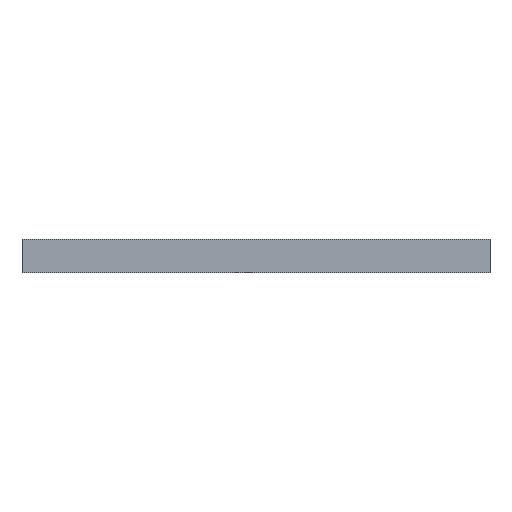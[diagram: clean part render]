
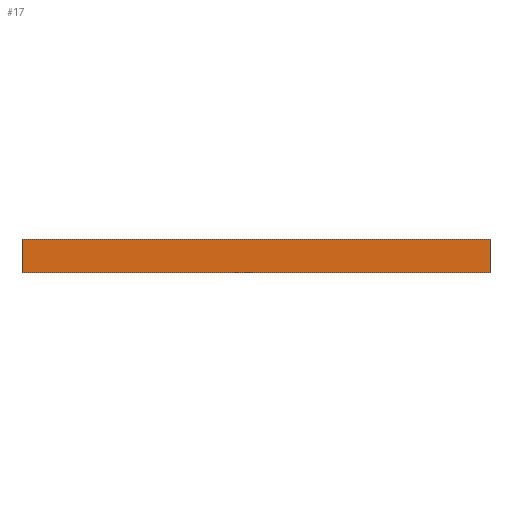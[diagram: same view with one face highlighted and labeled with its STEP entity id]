
A CAD part, left-side view. The second image highlights one B-rep face of the part: STEP entity #17.
In plain terms, the highlighted planar face has unit normal (-1, 0, 0).
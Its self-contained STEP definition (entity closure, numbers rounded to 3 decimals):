
#17 = ADVANCED_FACE('',(#18),#32,.F.);
#18 = FACE_BOUND('',#19,.F.);
#19 = EDGE_LOOP('',(#20,#55,#83,#111));
#20 = ORIENTED_EDGE('',*,*,#21,.F.);
#21 = EDGE_CURVE('',#22,#24,#26,.T.);
#22 = VERTEX_POINT('',#23);
#23 = CARTESIAN_POINT('',(-105.,-105.,0.));
#24 = VERTEX_POINT('',#25);
#25 = CARTESIAN_POINT('',(-105.,-105.,15.));
#26 = SURFACE_CURVE('',#27,(#31,#43),.PCURVE_S1.);
#27 = LINE('',#28,#29);
#28 = CARTESIAN_POINT('',(-105.,-105.,0.));
#29 = VECTOR('',#30,1.);
#30 = DIRECTION('',(0.,0.,1.));
#31 = PCURVE('',#32,#37);
#32 = PLANE('',#33);
#33 = AXIS2_PLACEMENT_3D('',#34,#35,#36);
#34 = CARTESIAN_POINT('',(-105.,-105.,0.));
#35 = DIRECTION('',(1.,0.,0.));
#36 = DIRECTION('',(0.,0.,1.));
#37 = DEFINITIONAL_REPRESENTATION('',(#38),#42);
#38 = LINE('',#39,#40);
#39 = CARTESIAN_POINT('',(0.,0.));
#40 = VECTOR('',#41,1.);
#41 = DIRECTION('',(1.,0.));
#42 = ( GEOMETRIC_REPRESENTATION_CONTEXT(2) 
PARAMETRIC_REPRESENTATION_CONTEXT() REPRESENTATION_CONTEXT('2D SPACE',''
  ) );
#43 = PCURVE('',#44,#49);
#44 = PLANE('',#45);
#45 = AXIS2_PLACEMENT_3D('',#46,#47,#48);
#46 = CARTESIAN_POINT('',(-105.,-105.,0.));
#47 = DIRECTION('',(0.,1.,0.));
#48 = DIRECTION('',(0.,0.,1.));
#49 = DEFINITIONAL_REPRESENTATION('',(#50),#54);
#50 = LINE('',#51,#52);
#51 = CARTESIAN_POINT('',(0.,0.));
#52 = VECTOR('',#53,1.);
#53 = DIRECTION('',(1.,0.));
#54 = ( GEOMETRIC_REPRESENTATION_CONTEXT(2) 
PARAMETRIC_REPRESENTATION_CONTEXT() REPRESENTATION_CONTEXT('2D SPACE',''
  ) );
#55 = ORIENTED_EDGE('',*,*,#56,.T.);
#56 = EDGE_CURVE('',#22,#57,#59,.T.);
#57 = VERTEX_POINT('',#58);
#58 = CARTESIAN_POINT('',(-105.,105.,0.));
#59 = SURFACE_CURVE('',#60,(#64,#71),.PCURVE_S1.);
#60 = LINE('',#61,#62);
#61 = CARTESIAN_POINT('',(-105.,-105.,0.));
#62 = VECTOR('',#63,1.);
#63 = DIRECTION('',(0.,1.,0.));
#64 = PCURVE('',#32,#65);
#65 = DEFINITIONAL_REPRESENTATION('',(#66),#70);
#66 = LINE('',#67,#68);
#67 = CARTESIAN_POINT('',(0.,0.));
#68 = VECTOR('',#69,1.);
#69 = DIRECTION('',(0.,-1.));
#70 = ( GEOMETRIC_REPRESENTATION_CONTEXT(2) 
PARAMETRIC_REPRESENTATION_CONTEXT() REPRESENTATION_CONTEXT('2D SPACE',''
  ) );
#71 = PCURVE('',#72,#77);
#72 = PLANE('',#73);
#73 = AXIS2_PLACEMENT_3D('',#74,#75,#76);
#74 = CARTESIAN_POINT('',(-105.,-105.,0.));
#75 = DIRECTION('',(0.,0.,1.));
#76 = DIRECTION('',(1.,0.,0.));
#77 = DEFINITIONAL_REPRESENTATION('',(#78),#82);
#78 = LINE('',#79,#80);
#79 = CARTESIAN_POINT('',(0.,0.));
#80 = VECTOR('',#81,1.);
#81 = DIRECTION('',(0.,1.));
#82 = ( GEOMETRIC_REPRESENTATION_CONTEXT(2) 
PARAMETRIC_REPRESENTATION_CONTEXT() REPRESENTATION_CONTEXT('2D SPACE',''
  ) );
#83 = ORIENTED_EDGE('',*,*,#84,.T.);
#84 = EDGE_CURVE('',#57,#85,#87,.T.);
#85 = VERTEX_POINT('',#86);
#86 = CARTESIAN_POINT('',(-105.,105.,15.));
#87 = SURFACE_CURVE('',#88,(#92,#99),.PCURVE_S1.);
#88 = LINE('',#89,#90);
#89 = CARTESIAN_POINT('',(-105.,105.,0.));
#90 = VECTOR('',#91,1.);
#91 = DIRECTION('',(0.,0.,1.));
#92 = PCURVE('',#32,#93);
#93 = DEFINITIONAL_REPRESENTATION('',(#94),#98);
#94 = LINE('',#95,#96);
#95 = CARTESIAN_POINT('',(0.,-210.));
#96 = VECTOR('',#97,1.);
#97 = DIRECTION('',(1.,0.));
#98 = ( GEOMETRIC_REPRESENTATION_CONTEXT(2) 
PARAMETRIC_REPRESENTATION_CONTEXT() REPRESENTATION_CONTEXT('2D SPACE',''
  ) );
#99 = PCURVE('',#100,#105);
#100 = PLANE('',#101);
#101 = AXIS2_PLACEMENT_3D('',#102,#103,#104);
#102 = CARTESIAN_POINT('',(-105.,105.,0.));
#103 = DIRECTION('',(0.,1.,0.));
#104 = DIRECTION('',(0.,0.,1.));
#105 = DEFINITIONAL_REPRESENTATION('',(#106),#110);
#106 = LINE('',#107,#108);
#107 = CARTESIAN_POINT('',(0.,0.));
#108 = VECTOR('',#109,1.);
#109 = DIRECTION('',(1.,0.));
#110 = ( GEOMETRIC_REPRESENTATION_CONTEXT(2) 
PARAMETRIC_REPRESENTATION_CONTEXT() REPRESENTATION_CONTEXT('2D SPACE',''
  ) );
#111 = ORIENTED_EDGE('',*,*,#112,.F.);
#112 = EDGE_CURVE('',#24,#85,#113,.T.);
#113 = SURFACE_CURVE('',#114,(#118,#125),.PCURVE_S1.);
#114 = LINE('',#115,#116);
#115 = CARTESIAN_POINT('',(-105.,-105.,15.));
#116 = VECTOR('',#117,1.);
#117 = DIRECTION('',(0.,1.,0.));
#118 = PCURVE('',#32,#119);
#119 = DEFINITIONAL_REPRESENTATION('',(#120),#124);
#120 = LINE('',#121,#122);
#121 = CARTESIAN_POINT('',(15.,0.));
#122 = VECTOR('',#123,1.);
#123 = DIRECTION('',(0.,-1.));
#124 = ( GEOMETRIC_REPRESENTATION_CONTEXT(2) 
PARAMETRIC_REPRESENTATION_CONTEXT() REPRESENTATION_CONTEXT('2D SPACE',''
  ) );
#125 = PCURVE('',#126,#131);
#126 = PLANE('',#127);
#127 = AXIS2_PLACEMENT_3D('',#128,#129,#130);
#128 = CARTESIAN_POINT('',(-105.,-105.,15.));
#129 = DIRECTION('',(0.,0.,1.));
#130 = DIRECTION('',(1.,0.,0.));
#131 = DEFINITIONAL_REPRESENTATION('',(#132),#136);
#132 = LINE('',#133,#134);
#133 = CARTESIAN_POINT('',(0.,0.));
#134 = VECTOR('',#135,1.);
#135 = DIRECTION('',(0.,1.));
#136 = ( GEOMETRIC_REPRESENTATION_CONTEXT(2) 
PARAMETRIC_REPRESENTATION_CONTEXT() REPRESENTATION_CONTEXT('2D SPACE',''
  ) );
